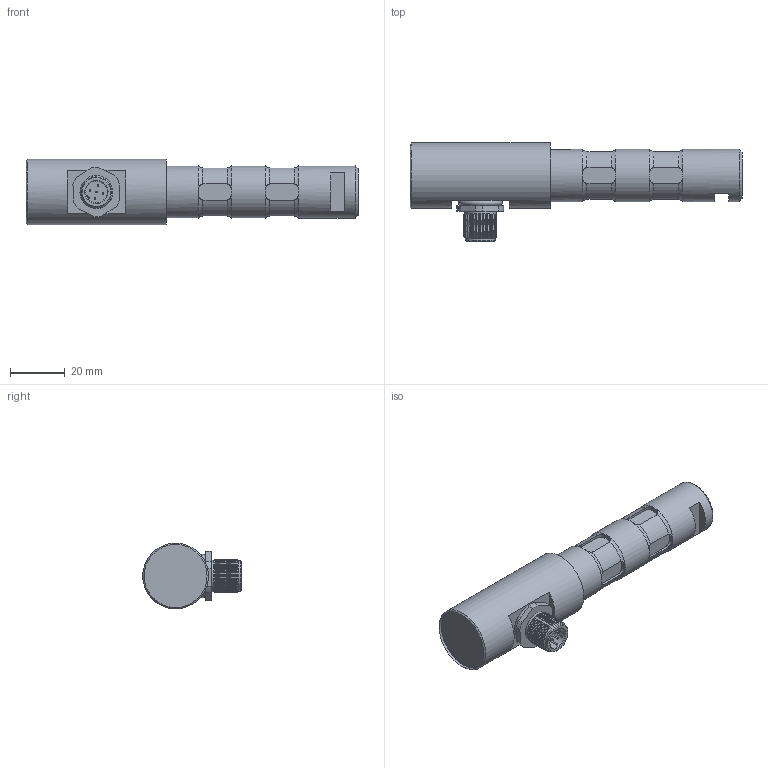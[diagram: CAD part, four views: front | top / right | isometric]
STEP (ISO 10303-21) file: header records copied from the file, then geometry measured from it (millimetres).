
FILE_DESCRIPTION(/* description */ ('Alibre Inc.'),/* implementation_level */ '2;1');
FILE_NAME(/* name */ 'export-132562A1-68B7-4D14-86AB-3396CF18FAAD',/* time_stamp */ '2024-07-12T13:41:28+02:00',/* author */ (''),/* organization */ (''),/* preprocessor_version */ 'ST-DEVELOPER v17',/* originating_system */ 'Alibre',/* authorisation */ '');
FILE_SCHEMA (('CONFIG_CONTROL_DESIGN'));
Length unit declared in the file: centimetre
Bounding box: 121.2 x 36 x 24 mm (x, y, z)
Surface area: 163159 mm2
Topology: 7 solids, 8 shells, 333 faces, 788 edges, 482 vertices
Faces by surface type: plane 131, cylinder 113, cone 71, torus 18
Full cylindrical faces by diameter (mm): 0.5 x10, 8 x2, 10 x1, 11 x1, 11.5 x1, 12 x21, 13 x2, 14.5 x1, 19.05 x3, 23 x1, 24 x1
Entity records: 8775 total; most frequent: CARTESIAN_POINT 2025, ORIENTED_EDGE 1366, DIRECTION 1109, EDGE_CURVE 677, VERTEX_POINT 467, AXIS2_PLACEMENT_3D 467, EDGE_LOOP 452, FACE_BOUND 452
